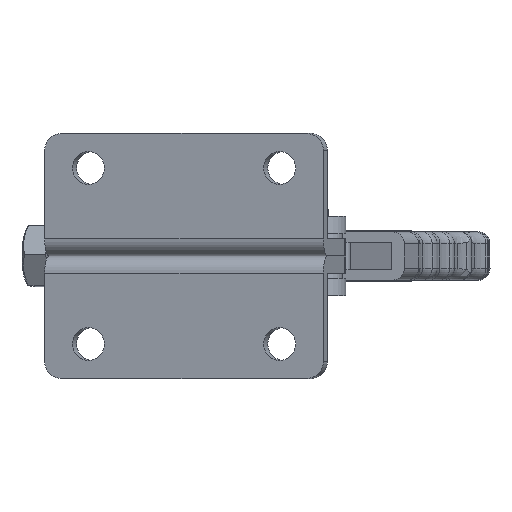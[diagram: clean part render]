
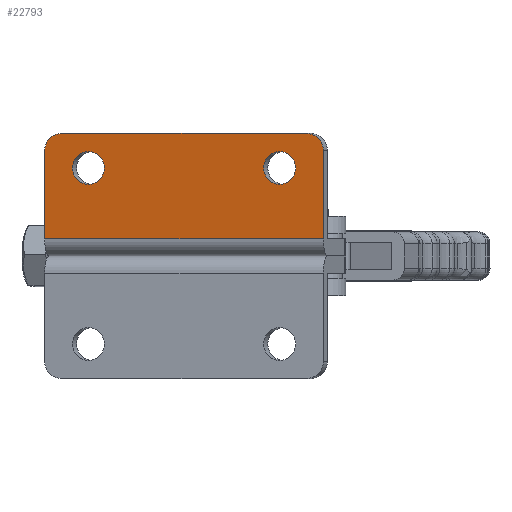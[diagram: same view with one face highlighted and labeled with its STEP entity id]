
A CAD part, front view. The second image highlights one B-rep face of the part: STEP entity #22793.
In plain terms, the highlighted planar face has unit normal (-0.237, -0.972, 0) as drawn and (0, -1, 0) by its records, which use the part's own axes.
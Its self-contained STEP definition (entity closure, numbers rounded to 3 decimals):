
#2449=FACE_BOUND('',#4342,.T.);
#2450=FACE_BOUND('',#4343,.T.);
#2544=PLANE('',#24335);
#3044=FACE_OUTER_BOUND('',#4341,.T.);
#4341=EDGE_LOOP('',(#15737,#15738,#15739,#15740,#15741,#15742));
#4342=EDGE_LOOP('',(#15743,#15744));
#4343=EDGE_LOOP('',(#15745,#15746));
#5722=LINE('',#30577,#7586);
#5725=LINE('',#30584,#7589);
#5728=LINE('',#30590,#7592);
#5732=LINE('',#30613,#7596);
#7586=VECTOR('',#25814,1000.);
#7589=VECTOR('',#25823,1000.);
#7592=VECTOR('',#25828,1000.);
#7596=VECTOR('',#25852,1000.);
#9460=CIRCLE('',#24336,5.);
#9461=CIRCLE('',#24337,5.);
#9462=CIRCLE('',#24338,4.75);
#9463=CIRCLE('',#24339,4.75);
#9464=CIRCLE('',#24340,4.75);
#9465=CIRCLE('',#24341,4.75);
#10023=VERTEX_POINT('',#30573);
#10024=VERTEX_POINT('',#30575);
#10025=VERTEX_POINT('',#30583);
#10027=VERTEX_POINT('',#30589);
#10035=VERTEX_POINT('',#30610);
#10036=VERTEX_POINT('',#30612);
#10037=VERTEX_POINT('',#30615);
#10038=VERTEX_POINT('',#30616);
#10039=VERTEX_POINT('',#30619);
#10040=VERTEX_POINT('',#30620);
#12253=EDGE_CURVE('',#10023,#10024,#5722,.T.);
#12256=EDGE_CURVE('',#10025,#10023,#5725,.T.);
#12259=EDGE_CURVE('',#10027,#10024,#5728,.T.);
#12269=EDGE_CURVE('',#10027,#10035,#9460,.T.);
#12270=EDGE_CURVE('',#10035,#10036,#5732,.T.);
#12271=EDGE_CURVE('',#10036,#10025,#9461,.T.);
#12272=EDGE_CURVE('',#10037,#10038,#9462,.T.);
#12273=EDGE_CURVE('',#10038,#10037,#9463,.T.);
#12274=EDGE_CURVE('',#10039,#10040,#9464,.T.);
#12275=EDGE_CURVE('',#10040,#10039,#9465,.T.);
#15737=ORIENTED_EDGE('',*,*,#12256,.T.);
#15738=ORIENTED_EDGE('',*,*,#12253,.T.);
#15739=ORIENTED_EDGE('',*,*,#12259,.F.);
#15740=ORIENTED_EDGE('',*,*,#12269,.T.);
#15741=ORIENTED_EDGE('',*,*,#12270,.T.);
#15742=ORIENTED_EDGE('',*,*,#12271,.T.);
#15743=ORIENTED_EDGE('',*,*,#12272,.F.);
#15744=ORIENTED_EDGE('',*,*,#12273,.F.);
#15745=ORIENTED_EDGE('',*,*,#12274,.F.);
#15746=ORIENTED_EDGE('',*,*,#12275,.F.);
#22793=ADVANCED_FACE('',(#3044,#2449,#2450),#2544,.F.);
#24335=AXIS2_PLACEMENT_3D('',#30609,#25848,#25849);
#24336=AXIS2_PLACEMENT_3D('',#30611,#25850,#25851);
#24337=AXIS2_PLACEMENT_3D('',#30614,#25853,#25854);
#24338=AXIS2_PLACEMENT_3D('',#30617,#25855,#25856);
#24339=AXIS2_PLACEMENT_3D('',#30618,#25857,#25858);
#24340=AXIS2_PLACEMENT_3D('',#30621,#25859,#25860);
#24341=AXIS2_PLACEMENT_3D('',#30622,#25861,#25862);
#25814=DIRECTION('',(1.,0.,0.));
#25823=DIRECTION('',(0.,0.,-1.));
#25828=DIRECTION('',(0.,0.,-1.));
#25848=DIRECTION('center_axis',(0.,1.,0.));
#25849=DIRECTION('ref_axis',(0.,0.,1.));
#25850=DIRECTION('center_axis',(0.,-1.,0.));
#25851=DIRECTION('ref_axis',(0.,0.,-1.));
#25852=DIRECTION('',(-1.,0.,0.));
#25853=DIRECTION('center_axis',(0.,-1.,0.));
#25854=DIRECTION('ref_axis',(0.,0.,-1.));
#25855=DIRECTION('center_axis',(0.,-1.,0.));
#25856=DIRECTION('ref_axis',(0.,0.,-1.));
#25857=DIRECTION('center_axis',(0.,-1.,0.));
#25858=DIRECTION('ref_axis',(0.,0.,-1.));
#25859=DIRECTION('center_axis',(0.,-1.,0.));
#25860=DIRECTION('ref_axis',(0.,0.,-1.));
#25861=DIRECTION('center_axis',(0.,-1.,0.));
#25862=DIRECTION('ref_axis',(0.,0.,-1.));
#30573=CARTESIAN_POINT('',(0.,0.,5.));
#30575=CARTESIAN_POINT('',(83.,0.,5.));
#30577=CARTESIAN_POINT('',(0.,0.,5.));
#30583=CARTESIAN_POINT('',(0.,0.,30.5));
#30584=CARTESIAN_POINT('',(0.,0.,5.));
#30589=CARTESIAN_POINT('',(83.,0.,30.5));
#30590=CARTESIAN_POINT('',(83.,0.,5.));
#30609=CARTESIAN_POINT('Origin',(0.,0.,5.));
#30610=CARTESIAN_POINT('',(78.,0.,35.5));
#30611=CARTESIAN_POINT('Origin',(78.,0.,30.5));
#30612=CARTESIAN_POINT('',(5.,0.,35.5));
#30613=CARTESIAN_POINT('',(78.,0.,35.5));
#30614=CARTESIAN_POINT('Origin',(5.,0.,30.5));
#30615=CARTESIAN_POINT('',(13.,0.,20.75));
#30616=CARTESIAN_POINT('',(13.,0.,30.25));
#30617=CARTESIAN_POINT('Origin',(13.,0.,25.5));
#30618=CARTESIAN_POINT('Origin',(13.,0.,25.5));
#30619=CARTESIAN_POINT('',(70.,0.,20.75));
#30620=CARTESIAN_POINT('',(70.,0.,30.25));
#30621=CARTESIAN_POINT('Origin',(70.,0.,25.5));
#30622=CARTESIAN_POINT('Origin',(70.,0.,25.5));
